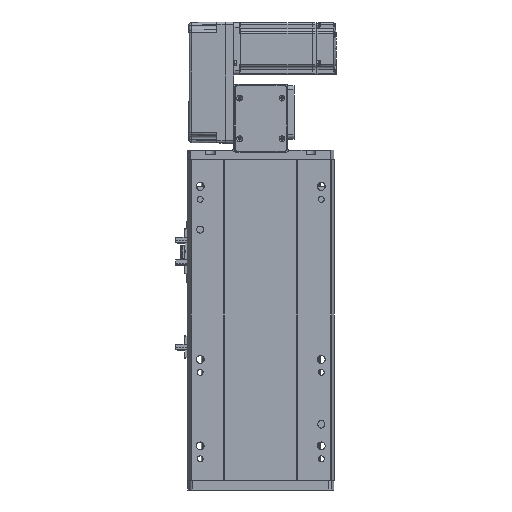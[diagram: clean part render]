
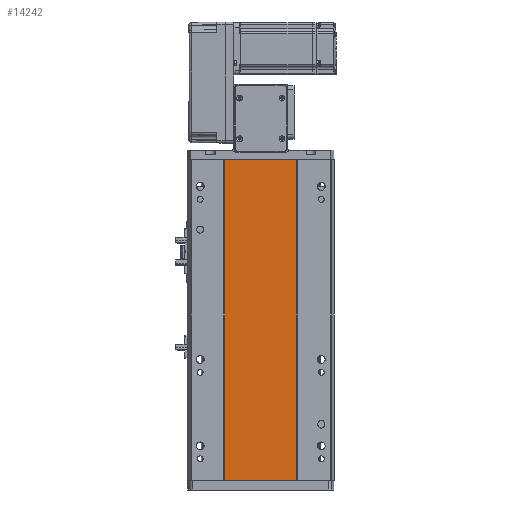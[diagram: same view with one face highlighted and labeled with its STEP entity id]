
A CAD part, front view. The second image highlights one B-rep face of the part: STEP entity #14242.
In plain terms, the highlighted planar face has unit normal (0, -1, 0).
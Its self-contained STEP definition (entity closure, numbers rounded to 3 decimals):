
#980 = DIRECTION ( 'NONE',  ( 0., 0., -1. ) ) ;
#1770 = LINE ( 'NONE', #48086, #23744 ) ;
#3846 = ORIENTED_EDGE ( 'NONE', *, *, #4541, .T. ) ;
#4520 = DIRECTION ( 'NONE',  ( 1., 0., 0. ) ) ;
#4541 = EDGE_CURVE ( 'NONE', #34171, #15013, #22990, .T. ) ;
#8867 = CARTESIAN_POINT ( 'NONE',  ( 0., 0.999, 371. ) ) ;
#12646 = VECTOR ( 'NONE', #4520, 1000. ) ;
#13348 = CARTESIAN_POINT ( 'NONE',  ( -41.791, 1., 0. ) ) ;
#14242 = ADVANCED_FACE ( 'NONE', ( #21067 ), #36296, .F. ) ;
#14291 = EDGE_CURVE ( 'NONE', #56475, #15013, #55456, .T. ) ;
#15013 = VERTEX_POINT ( 'NONE', #48598 ) ;
#16890 = EDGE_CURVE ( 'NONE', #34015, #56475, #58803, .T. ) ;
#21067 = FACE_OUTER_BOUND ( 'NONE', #33303, .T. ) ;
#21489 = VECTOR ( 'NONE', #58576, 1000. ) ;
#22401 = DIRECTION ( 'NONE',  ( 0., 1., 0. ) ) ;
#22990 = LINE ( 'NONE', #25806, #21489 ) ;
#23289 = ORIENTED_EDGE ( 'NONE', *, *, #14291, .F. ) ;
#23744 = VECTOR ( 'NONE', #980, 1000. ) ;
#25806 = CARTESIAN_POINT ( 'NONE',  ( 0., 0.999, 0. ) ) ;
#33303 = EDGE_LOOP ( 'NONE', ( #3846, #23289, #38675, #49483 ) ) ;
#34015 = VERTEX_POINT ( 'NONE', #49657 ) ;
#34171 = VERTEX_POINT ( 'NONE', #13348 ) ;
#34330 = EDGE_CURVE ( 'NONE', #34015, #34171, #1770, .T. ) ;
#36296 = PLANE ( 'NONE',  #51479 ) ;
#38675 = ORIENTED_EDGE ( 'NONE', *, *, #16890, .F. ) ;
#41449 = DIRECTION ( 'NONE',  ( -1., 0., 0. ) ) ;
#41629 = CARTESIAN_POINT ( 'NONE',  ( 0., 0.999, 371. ) ) ;
#41848 = DIRECTION ( 'NONE',  ( 0., 0., -1. ) ) ;
#48086 = CARTESIAN_POINT ( 'NONE',  ( -41.791, 1., 371. ) ) ;
#48598 = CARTESIAN_POINT ( 'NONE',  ( 41.793, 0.998, 0. ) ) ;
#49483 = ORIENTED_EDGE ( 'NONE', *, *, #34330, .T. ) ;
#49657 = CARTESIAN_POINT ( 'NONE',  ( -41.791, 1., 371. ) ) ;
#51063 = CARTESIAN_POINT ( 'NONE',  ( 41.793, 0.998, 371. ) ) ;
#51069 = CARTESIAN_POINT ( 'NONE',  ( 41.793, 0.998, 371. ) ) ;
#51479 = AXIS2_PLACEMENT_3D ( 'NONE', #8867, #22401, #41449 ) ;
#55456 = LINE ( 'NONE', #51063, #57625 ) ;
#56475 = VERTEX_POINT ( 'NONE', #51069 ) ;
#57625 = VECTOR ( 'NONE', #41848, 1000. ) ;
#58576 = DIRECTION ( 'NONE',  ( 1., 0., 0. ) ) ;
#58803 = LINE ( 'NONE', #41629, #12646 ) ;
